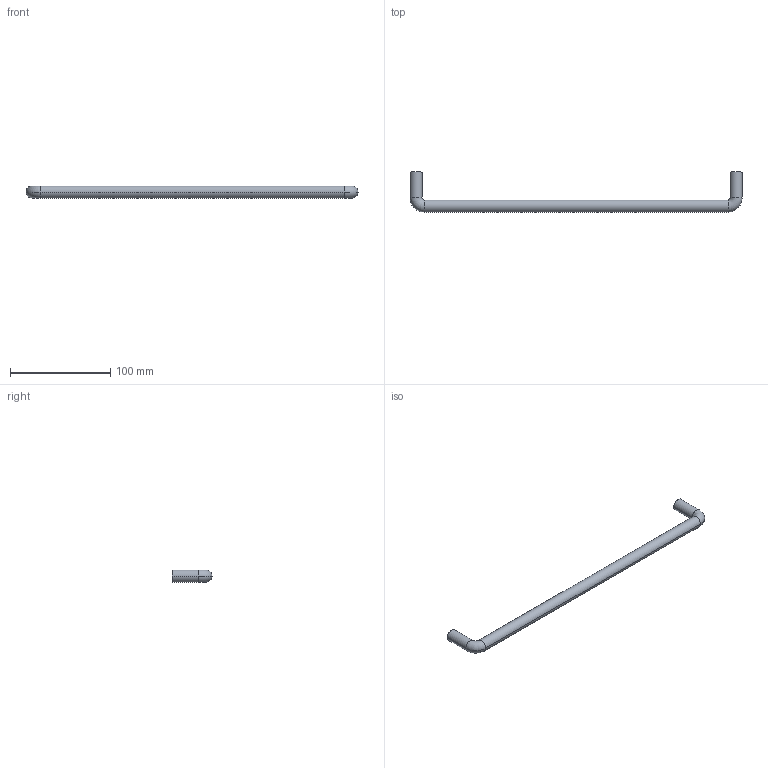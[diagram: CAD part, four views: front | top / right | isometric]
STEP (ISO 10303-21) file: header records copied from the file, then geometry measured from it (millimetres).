
FILE_DESCRIPTION( ( '' ), '1' );
FILE_NAME( 'C:/Documents and Settings/Sachin/Desktop/Sheet 10_1/stp/9070119.stp', '2013-10-22T08:17:33', ( '' ), ( '' ), ' ', ' ', ' ' );
FILE_SCHEMA( ( 'CONFIG_CONTROL_DESIGN' ) );
Length unit declared in the file: millimetre
Products named in the file (1): 1
Bounding box: 332 x 40 x 12 mm (x, y, z)
Volume: 42853.8 mm3; surface area: 14845.9 mm2
Topology: 1 solids, 1 shells, 18 faces, 34 edges, 20 vertices
Faces by surface type: cylinder 10, torus 4, plane 4
Entity records: 502 total; most frequent: DIRECTION 96, CARTESIAN_POINT 73, ORIENTED_EDGE 68, AXIS2_PLACEMENT_3D 43, EDGE_CURVE 34, CIRCLE 24, EDGE_LOOP 20, VERTEX_POINT 20
